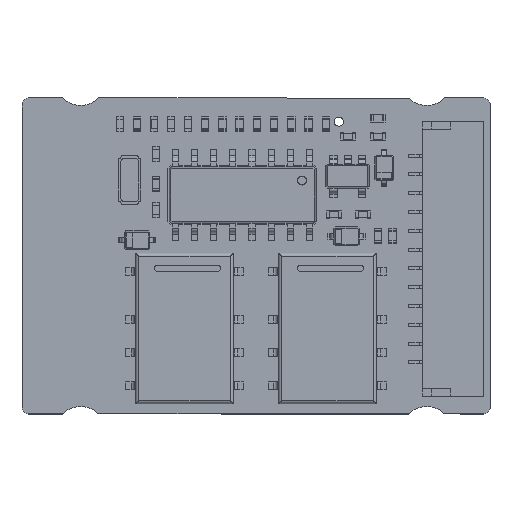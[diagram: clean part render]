
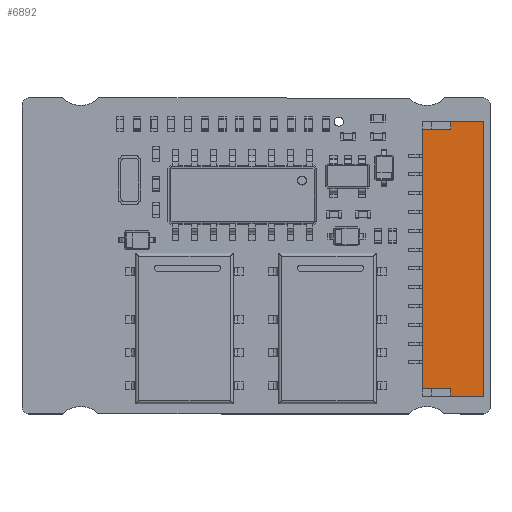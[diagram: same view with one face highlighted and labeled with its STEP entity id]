
A CAD part, top view. The second image highlights one B-rep face of the part: STEP entity #6892.
In plain terms, the highlighted planar face has unit normal (0, 0, 1).
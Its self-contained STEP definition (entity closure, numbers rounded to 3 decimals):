
#2094 = PLANE('',#2095);
#2095 = AXIS2_PLACEMENT_3D('',#2096,#2097,#2098);
#2096 = CARTESIAN_POINT('',(-9.125,1.58,-0.005));
#2097 = DIRECTION('',(1.,0.,0.));
#2098 = DIRECTION('',(0.,-1.,0.));
#2246 = PLANE('',#2247);
#2247 = AXIS2_PLACEMENT_3D('',#2248,#2249,#2250);
#2248 = CARTESIAN_POINT('',(-9.125,1.58,-0.005));
#2249 = DIRECTION('',(0.,-1.,0.));
#2250 = DIRECTION('',(1.,0.,0.));
#2343 = VERTEX_POINT('',#2344);
#2344 = CARTESIAN_POINT('',(-9.125,-0.32,4.245));
#2358 = PLANE('',#2359);
#2359 = AXIS2_PLACEMENT_3D('',#2360,#2361,#2362);
#2360 = CARTESIAN_POINT('',(-9.125,-0.32,3.595));
#2361 = DIRECTION('',(0.,-1.,0.));
#2362 = DIRECTION('',(0.,0.,1.));
#2370 = EDGE_CURVE('',#2343,#2371,#2373,.T.);
#2371 = VERTEX_POINT('',#2372);
#2372 = CARTESIAN_POINT('',(-9.125,-2.47,4.245));
#2373 = SURFACE_CURVE('',#2374,(#2378,#2385),.PCURVE_S1.);
#2374 = LINE('',#2375,#2376);
#2375 = CARTESIAN_POINT('',(-9.125,1.58,4.245));
#2376 = VECTOR('',#2377,1.);
#2377 = DIRECTION('',(0.,-1.,0.));
#2378 = PCURVE('',#2094,#2379);
#2379 = DEFINITIONAL_REPRESENTATION('',(#2380),#2384);
#2380 = LINE('',#2381,#2382);
#2381 = CARTESIAN_POINT('',(0.,-4.25));
#2382 = VECTOR('',#2383,1.);
#2383 = DIRECTION('',(1.,0.));
#2384 = ( GEOMETRIC_REPRESENTATION_CONTEXT(2) 
PARAMETRIC_REPRESENTATION_CONTEXT() REPRESENTATION_CONTEXT('2D SPACE',''
  ) );
#2385 = PCURVE('',#2386,#2391);
#2386 = PLANE('',#2387);
#2387 = AXIS2_PLACEMENT_3D('',#2388,#2389,#2390);
#2388 = CARTESIAN_POINT('',(-9.125,1.58,4.245));
#2389 = DIRECTION('',(0.,0.,1.));
#2390 = DIRECTION('',(0.,-1.,0.));
#2391 = DEFINITIONAL_REPRESENTATION('',(#2392),#2396);
#2392 = LINE('',#2393,#2394);
#2393 = CARTESIAN_POINT('',(0.,0.));
#2394 = VECTOR('',#2395,1.);
#2395 = DIRECTION('',(1.,0.));
#2396 = ( GEOMETRIC_REPRESENTATION_CONTEXT(2) 
PARAMETRIC_REPRESENTATION_CONTEXT() REPRESENTATION_CONTEXT('2D SPACE',''
  ) );
#2414 = PLANE('',#2415);
#2415 = AXIS2_PLACEMENT_3D('',#2416,#2417,#2418);
#2416 = CARTESIAN_POINT('',(-9.125,-2.47,-0.005));
#2417 = DIRECTION('',(0.,-1.,0.));
#2418 = DIRECTION('',(1.,0.,0.));
#2707 = PLANE('',#2708);
#2708 = AXIS2_PLACEMENT_3D('',#2709,#2710,#2711);
#2709 = CARTESIAN_POINT('',(9.125,1.58,-0.005));
#2710 = DIRECTION('',(1.,0.,0.));
#2711 = DIRECTION('',(0.,-1.,0.));
#3366 = VERTEX_POINT('',#3367);
#3367 = CARTESIAN_POINT('',(9.125,-2.47,4.245));
#3388 = EDGE_CURVE('',#2371,#3366,#3389,.T.);
#3389 = SURFACE_CURVE('',#3390,(#3394,#3401),.PCURVE_S1.);
#3390 = LINE('',#3391,#3392);
#3391 = CARTESIAN_POINT('',(-9.125,-2.47,4.245));
#3392 = VECTOR('',#3393,1.);
#3393 = DIRECTION('',(1.,0.,0.));
#3394 = PCURVE('',#2414,#3395);
#3395 = DEFINITIONAL_REPRESENTATION('',(#3396),#3400);
#3396 = LINE('',#3397,#3398);
#3397 = CARTESIAN_POINT('',(0.,4.25));
#3398 = VECTOR('',#3399,1.);
#3399 = DIRECTION('',(1.,0.));
#3400 = ( GEOMETRIC_REPRESENTATION_CONTEXT(2) 
PARAMETRIC_REPRESENTATION_CONTEXT() REPRESENTATION_CONTEXT('2D SPACE',''
  ) );
#3401 = PCURVE('',#2386,#3402);
#3402 = DEFINITIONAL_REPRESENTATION('',(#3403),#3407);
#3403 = LINE('',#3404,#3405);
#3404 = CARTESIAN_POINT('',(4.05,0.));
#3405 = VECTOR('',#3406,1.);
#3406 = DIRECTION('',(0.,1.));
#3407 = ( GEOMETRIC_REPRESENTATION_CONTEXT(2) 
PARAMETRIC_REPRESENTATION_CONTEXT() REPRESENTATION_CONTEXT('2D SPACE',''
  ) );
#6892 = ADVANCED_FACE('',(#6893),#2386,.T.);
#6893 = FACE_BOUND('',#6894,.T.);
#6894 = EDGE_LOOP('',(#6895,#6920,#6948,#6969,#6970,#6971,#6994,#7022));
#6895 = ORIENTED_EDGE('',*,*,#6896,.F.);
#6896 = EDGE_CURVE('',#6897,#6899,#6901,.T.);
#6897 = VERTEX_POINT('',#6898);
#6898 = CARTESIAN_POINT('',(-8.625,1.58,4.245));
#6899 = VERTEX_POINT('',#6900);
#6900 = CARTESIAN_POINT('',(8.625,1.58,4.245));
#6901 = SURFACE_CURVE('',#6902,(#6906,#6913),.PCURVE_S1.);
#6902 = LINE('',#6903,#6904);
#6903 = CARTESIAN_POINT('',(-9.125,1.58,4.245));
#6904 = VECTOR('',#6905,1.);
#6905 = DIRECTION('',(1.,0.,0.));
#6906 = PCURVE('',#2386,#6907);
#6907 = DEFINITIONAL_REPRESENTATION('',(#6908),#6912);
#6908 = LINE('',#6909,#6910);
#6909 = CARTESIAN_POINT('',(0.,0.));
#6910 = VECTOR('',#6911,1.);
#6911 = DIRECTION('',(0.,1.));
#6912 = ( GEOMETRIC_REPRESENTATION_CONTEXT(2) 
PARAMETRIC_REPRESENTATION_CONTEXT() REPRESENTATION_CONTEXT('2D SPACE',''
  ) );
#6913 = PCURVE('',#2246,#6914);
#6914 = DEFINITIONAL_REPRESENTATION('',(#6915),#6919);
#6915 = LINE('',#6916,#6917);
#6916 = CARTESIAN_POINT('',(0.,4.25));
#6917 = VECTOR('',#6918,1.);
#6918 = DIRECTION('',(1.,0.));
#6919 = ( GEOMETRIC_REPRESENTATION_CONTEXT(2) 
PARAMETRIC_REPRESENTATION_CONTEXT() REPRESENTATION_CONTEXT('2D SPACE',''
  ) );
#6920 = ORIENTED_EDGE('',*,*,#6921,.F.);
#6921 = EDGE_CURVE('',#6922,#6897,#6924,.T.);
#6922 = VERTEX_POINT('',#6923);
#6923 = CARTESIAN_POINT('',(-8.625,-0.32,4.245));
#6924 = SURFACE_CURVE('',#6925,(#6929,#6936),.PCURVE_S1.);
#6925 = LINE('',#6926,#6927);
#6926 = CARTESIAN_POINT('',(-8.625,-0.32,4.245));
#6927 = VECTOR('',#6928,1.);
#6928 = DIRECTION('',(0.,1.,0.));
#6929 = PCURVE('',#2386,#6930);
#6930 = DEFINITIONAL_REPRESENTATION('',(#6931),#6935);
#6931 = LINE('',#6932,#6933);
#6932 = CARTESIAN_POINT('',(1.9,0.5));
#6933 = VECTOR('',#6934,1.);
#6934 = DIRECTION('',(-1.,0.));
#6935 = ( GEOMETRIC_REPRESENTATION_CONTEXT(2) 
PARAMETRIC_REPRESENTATION_CONTEXT() REPRESENTATION_CONTEXT('2D SPACE',''
  ) );
#6936 = PCURVE('',#6937,#6942);
#6937 = PLANE('',#6938);
#6938 = AXIS2_PLACEMENT_3D('',#6939,#6940,#6941);
#6939 = CARTESIAN_POINT('',(-8.625,0.881,3.371));
#6940 = DIRECTION('',(-1.,0.,-0.));
#6941 = DIRECTION('',(0.,1.,0.));
#6942 = DEFINITIONAL_REPRESENTATION('',(#6943),#6947);
#6943 = LINE('',#6944,#6945);
#6944 = CARTESIAN_POINT('',(-1.201,-0.874));
#6945 = VECTOR('',#6946,1.);
#6946 = DIRECTION('',(1.,0.));
#6947 = ( GEOMETRIC_REPRESENTATION_CONTEXT(2) 
PARAMETRIC_REPRESENTATION_CONTEXT() REPRESENTATION_CONTEXT('2D SPACE',''
  ) );
#6948 = ORIENTED_EDGE('',*,*,#6949,.F.);
#6949 = EDGE_CURVE('',#2343,#6922,#6950,.T.);
#6950 = SURFACE_CURVE('',#6951,(#6955,#6962),.PCURVE_S1.);
#6951 = LINE('',#6952,#6953);
#6952 = CARTESIAN_POINT('',(-9.125,-0.32,4.245));
#6953 = VECTOR('',#6954,1.);
#6954 = DIRECTION('',(1.,0.,0.));
#6955 = PCURVE('',#2386,#6956);
#6956 = DEFINITIONAL_REPRESENTATION('',(#6957),#6961);
#6957 = LINE('',#6958,#6959);
#6958 = CARTESIAN_POINT('',(1.9,0.));
#6959 = VECTOR('',#6960,1.);
#6960 = DIRECTION('',(0.,1.));
#6961 = ( GEOMETRIC_REPRESENTATION_CONTEXT(2) 
PARAMETRIC_REPRESENTATION_CONTEXT() REPRESENTATION_CONTEXT('2D SPACE',''
  ) );
#6962 = PCURVE('',#2358,#6963);
#6963 = DEFINITIONAL_REPRESENTATION('',(#6964),#6968);
#6964 = LINE('',#6965,#6966);
#6965 = CARTESIAN_POINT('',(0.65,0.));
#6966 = VECTOR('',#6967,1.);
#6967 = DIRECTION('',(0.,-1.));
#6968 = ( GEOMETRIC_REPRESENTATION_CONTEXT(2) 
PARAMETRIC_REPRESENTATION_CONTEXT() REPRESENTATION_CONTEXT('2D SPACE',''
  ) );
#6969 = ORIENTED_EDGE('',*,*,#2370,.T.);
#6970 = ORIENTED_EDGE('',*,*,#3388,.T.);
#6971 = ORIENTED_EDGE('',*,*,#6972,.F.);
#6972 = EDGE_CURVE('',#6973,#3366,#6975,.T.);
#6973 = VERTEX_POINT('',#6974);
#6974 = CARTESIAN_POINT('',(9.125,-0.32,4.245));
#6975 = SURFACE_CURVE('',#6976,(#6980,#6987),.PCURVE_S1.);
#6976 = LINE('',#6977,#6978);
#6977 = CARTESIAN_POINT('',(9.125,1.58,4.245));
#6978 = VECTOR('',#6979,1.);
#6979 = DIRECTION('',(0.,-1.,0.));
#6980 = PCURVE('',#2386,#6981);
#6981 = DEFINITIONAL_REPRESENTATION('',(#6982),#6986);
#6982 = LINE('',#6983,#6984);
#6983 = CARTESIAN_POINT('',(0.,18.25));
#6984 = VECTOR('',#6985,1.);
#6985 = DIRECTION('',(1.,0.));
#6986 = ( GEOMETRIC_REPRESENTATION_CONTEXT(2) 
PARAMETRIC_REPRESENTATION_CONTEXT() REPRESENTATION_CONTEXT('2D SPACE',''
  ) );
#6987 = PCURVE('',#2707,#6988);
#6988 = DEFINITIONAL_REPRESENTATION('',(#6989),#6993);
#6989 = LINE('',#6990,#6991);
#6990 = CARTESIAN_POINT('',(0.,-4.25));
#6991 = VECTOR('',#6992,1.);
#6992 = DIRECTION('',(1.,0.));
#6993 = ( GEOMETRIC_REPRESENTATION_CONTEXT(2) 
PARAMETRIC_REPRESENTATION_CONTEXT() REPRESENTATION_CONTEXT('2D SPACE',''
  ) );
#6994 = ORIENTED_EDGE('',*,*,#6995,.F.);
#6995 = EDGE_CURVE('',#6996,#6973,#6998,.T.);
#6996 = VERTEX_POINT('',#6997);
#6997 = CARTESIAN_POINT('',(8.625,-0.32,4.245));
#6998 = SURFACE_CURVE('',#6999,(#7003,#7010),.PCURVE_S1.);
#6999 = LINE('',#7000,#7001);
#7000 = CARTESIAN_POINT('',(8.625,-0.32,4.245));
#7001 = VECTOR('',#7002,1.);
#7002 = DIRECTION('',(1.,0.,0.));
#7003 = PCURVE('',#2386,#7004);
#7004 = DEFINITIONAL_REPRESENTATION('',(#7005),#7009);
#7005 = LINE('',#7006,#7007);
#7006 = CARTESIAN_POINT('',(1.9,17.75));
#7007 = VECTOR('',#7008,1.);
#7008 = DIRECTION('',(0.,1.));
#7009 = ( GEOMETRIC_REPRESENTATION_CONTEXT(2) 
PARAMETRIC_REPRESENTATION_CONTEXT() REPRESENTATION_CONTEXT('2D SPACE',''
  ) );
#7010 = PCURVE('',#7011,#7016);
#7011 = PLANE('',#7012);
#7012 = AXIS2_PLACEMENT_3D('',#7013,#7014,#7015);
#7013 = CARTESIAN_POINT('',(8.625,-0.32,3.595));
#7014 = DIRECTION('',(0.,-1.,0.));
#7015 = DIRECTION('',(0.,0.,1.));
#7016 = DEFINITIONAL_REPRESENTATION('',(#7017),#7021);
#7017 = LINE('',#7018,#7019);
#7018 = CARTESIAN_POINT('',(0.65,0.));
#7019 = VECTOR('',#7020,1.);
#7020 = DIRECTION('',(0.,-1.));
#7021 = ( GEOMETRIC_REPRESENTATION_CONTEXT(2) 
PARAMETRIC_REPRESENTATION_CONTEXT() REPRESENTATION_CONTEXT('2D SPACE',''
  ) );
#7022 = ORIENTED_EDGE('',*,*,#7023,.T.);
#7023 = EDGE_CURVE('',#6996,#6899,#7024,.T.);
#7024 = SURFACE_CURVE('',#7025,(#7029,#7036),.PCURVE_S1.);
#7025 = LINE('',#7026,#7027);
#7026 = CARTESIAN_POINT('',(8.625,-0.32,4.245));
#7027 = VECTOR('',#7028,1.);
#7028 = DIRECTION('',(0.,1.,0.));
#7029 = PCURVE('',#2386,#7030);
#7030 = DEFINITIONAL_REPRESENTATION('',(#7031),#7035);
#7031 = LINE('',#7032,#7033);
#7032 = CARTESIAN_POINT('',(1.9,17.75));
#7033 = VECTOR('',#7034,1.);
#7034 = DIRECTION('',(-1.,0.));
#7035 = ( GEOMETRIC_REPRESENTATION_CONTEXT(2) 
PARAMETRIC_REPRESENTATION_CONTEXT() REPRESENTATION_CONTEXT('2D SPACE',''
  ) );
#7036 = PCURVE('',#7037,#7042);
#7037 = PLANE('',#7038);
#7038 = AXIS2_PLACEMENT_3D('',#7039,#7040,#7041);
#7039 = CARTESIAN_POINT('',(8.625,0.881,3.371));
#7040 = DIRECTION('',(-1.,0.,-0.));
#7041 = DIRECTION('',(0.,1.,0.));
#7042 = DEFINITIONAL_REPRESENTATION('',(#7043),#7047);
#7043 = LINE('',#7044,#7045);
#7044 = CARTESIAN_POINT('',(-1.201,-0.874));
#7045 = VECTOR('',#7046,1.);
#7046 = DIRECTION('',(1.,0.));
#7047 = ( GEOMETRIC_REPRESENTATION_CONTEXT(2) 
PARAMETRIC_REPRESENTATION_CONTEXT() REPRESENTATION_CONTEXT('2D SPACE',''
  ) );
